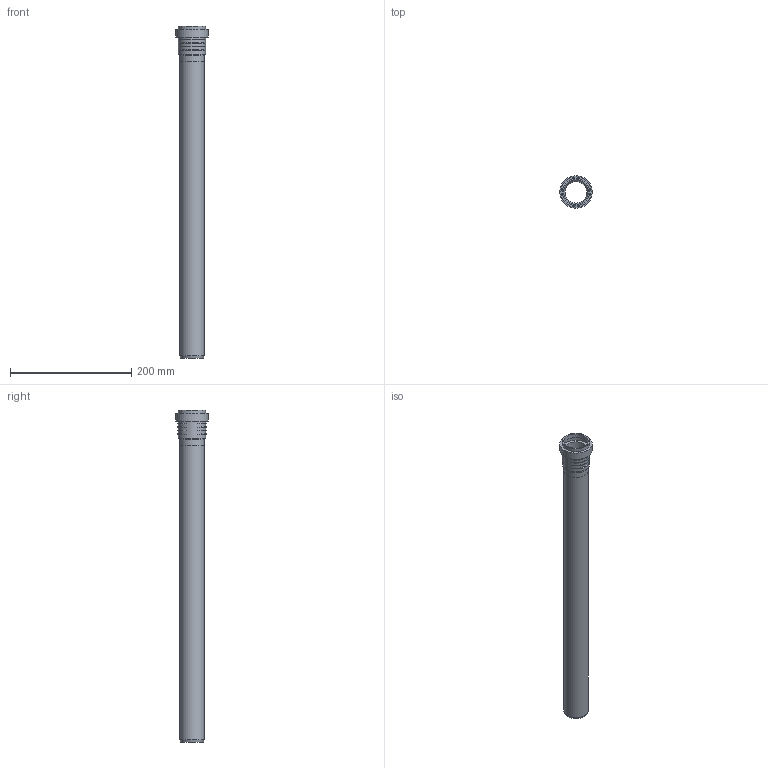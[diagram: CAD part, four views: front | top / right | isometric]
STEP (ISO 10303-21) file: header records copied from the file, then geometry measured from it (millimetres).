
FILE_DESCRIPTION(/* description */ (''),/* implementation_level */ '2;1');
FILE_NAME(/* name */ 'Z:\Geberit\Export\NewStep\390102.stp',/* time_stamp */ '2014-04-02T08:08:35+02:00',/* author */ ('ML'),/* organization */ (''),/* preprocessor_version */ 'ST-DEVELOPER v15.2',/* originating_system */ 'Autodesk Inventor 2014',/* authorisation */ '');
FILE_SCHEMA (('AUTOMOTIVE_DESIGN { 1 0 10303 214 3 1 1 }'));
Length unit declared in the file: millimetre
Products named in the file (3): 861412; 861581ohne; 390102
Bounding box: 53.5 x 53.5 x 547.3 mm (x, y, z)
Volume: 138445.3 mm3; surface area: 139717.5 mm2
Topology: 2 solids, 2 shells, 47 faces, 104 edges, 71 vertices
Faces by surface type: torus 24, cylinder 11, plane 10, cone 2
Full cylindrical faces by diameter (mm): 36.15 x2, 40.15 x2, 40.8 x2, 42.8 x1, 44.8 x2, 49.5 x1, 53.5 x1
Entity records: 2003 total; most frequent: CARTESIAN_POINT 962, DIRECTION 182, ORIENTED_EDGE 174, AXIS2_PLACEMENT_3D 91, EDGE_CURVE 87, EDGE_LOOP 78, VERTEX_POINT 71, STYLED_ITEM 49
